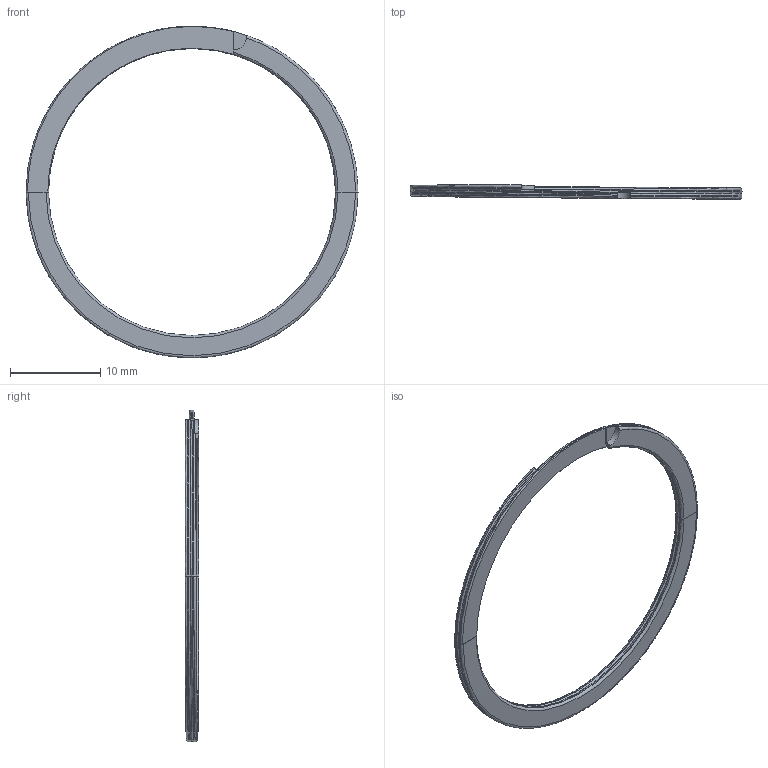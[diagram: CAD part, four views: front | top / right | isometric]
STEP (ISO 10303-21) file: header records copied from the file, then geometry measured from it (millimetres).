
FILE_DESCRIPTION (( 'STEP AP203' ), '1' );
FILE_NAME ('WHT-137_Snap_Ring.STEP', '2020-12-18T22:13:49', ( '' ), ( '' ), 'SwSTEP 2.0', 'SolidWorks 2020', '' );
FILE_SCHEMA (( 'CONFIG_CONTROL_DESIGN' ));
Length unit declared in the file: inch
Products named in the file (1): WHT-137_Snap_Ring
Bounding box: 36.84 x 1.55 x 36.84 mm (x, y, z)
Volume: 287.7 mm3; surface area: 756.9 mm2
Topology: 1 solids, 1 shells, 51 faces, 124 edges, 73 vertices
Faces by surface type: bspline 24, cone 12, plane 11, cylinder 4
Entity records: 2137 total; most frequent: CARTESIAN_POINT 992, ORIENTED_EDGE 248, DIRECTION 201, EDGE_CURVE 124, AXIS2_PLACEMENT_3D 87, VERTEX_POINT 73, CIRCLE 59, FACE_OUTER_BOUND 51
